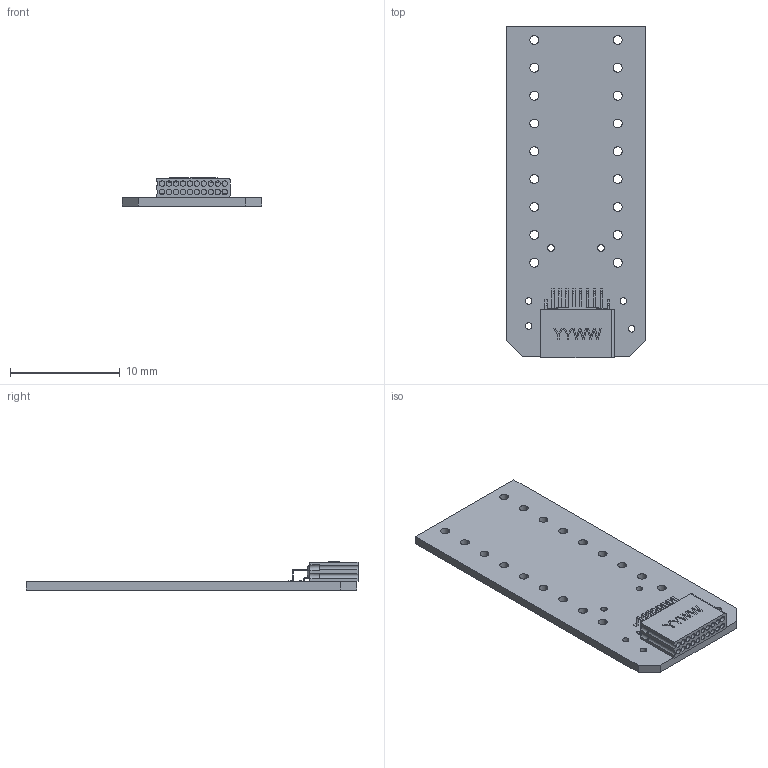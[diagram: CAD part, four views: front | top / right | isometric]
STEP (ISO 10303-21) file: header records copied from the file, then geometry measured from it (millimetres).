
FILE_DESCRIPTION (( 'STEP AP214' ), '1' );
FILE_NAME ('Electrode_Adapter_18pin.STEP', '2022-03-21T18:53:48', ( '' ), ( '' ), 'SwSTEP 2.0', 'SolidWorks 2022', '' );
FILE_SCHEMA (( 'AUTOMOTIVE_DESIGN' ));
Length unit declared in the file: inch
Products named in the file (3): A79040-001; Electrode_Adapter_18pin; Electrode_Adapter_18pin_PCB
Assembly tree (2 placements, depth 2):
  Electrode_Adapter_18pin
    Electrode_Adapter_18pin_PCB
    A79040-001
Bounding box: 12.7 x 30.29 x 2.58 mm (x, y, z)
Volume: 325.7 mm3; surface area: 1116.7 mm2
Topology: 2 solids, 2 shells, 513 faces, 1348 edges, 893 vertices
Faces by surface type: plane 271, cylinder 222, bspline 20
Entity records: 19200 total; most frequent: CARTESIAN_POINT 3434, DIRECTION 2754, ORIENTED_EDGE 2688, EDGE_CURVE 1344, AXIS2_PLACEMENT_3D 972, VERTEX_POINT 893, LINE 810, VECTOR 810
